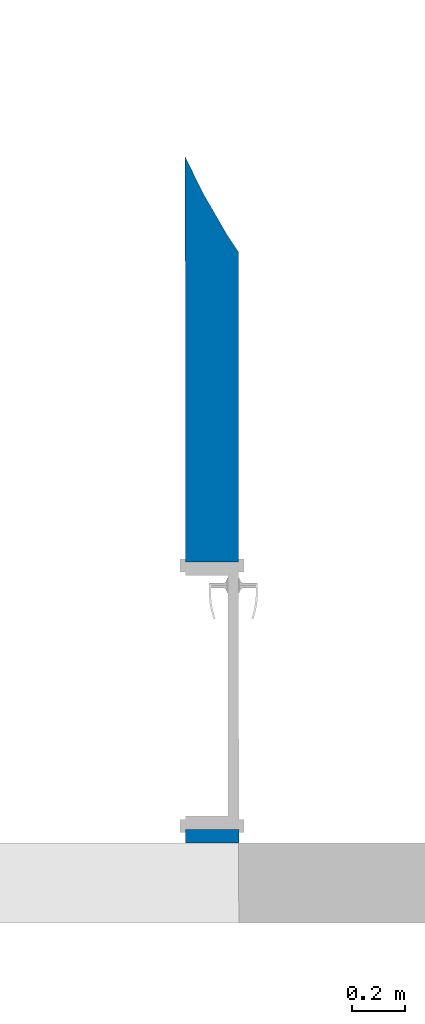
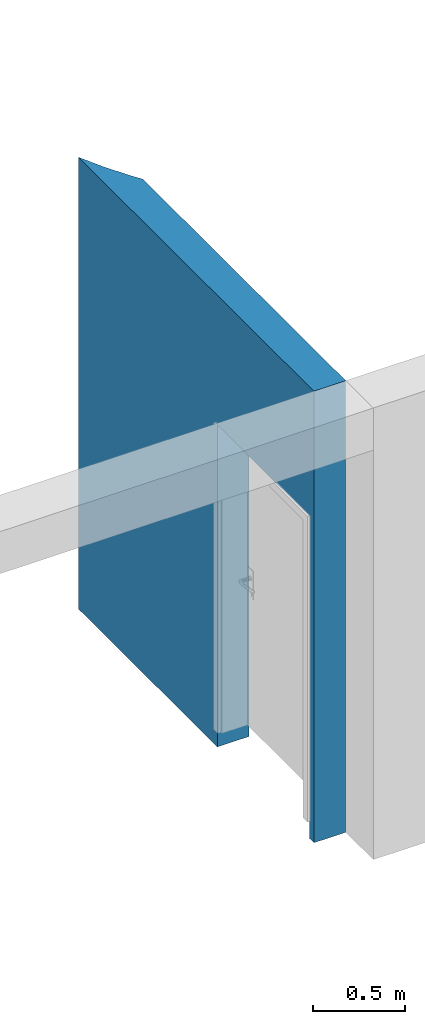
# One storey, part 2 of 5: 1 wall, 1 opening.
"""IFC4 building model written with IfcOpenShell, lengths in millimetres."""

from ifc_helpers import new_model, entity, si_unit, converted_unit, derived_unit, direction, frame, origin_with_axes, place, context, subcontext, project, spatial, polygons, material, constituent, constituent_set, type_object, element, save


model = new_model("IFC4")

# Units and contexts
model_context = context("Model", 3, precision=0.01, world=origin_with_axes(), true_north=direction((0.0, 1.0)))
body_context = subcontext(model_context, "Body", "Model", "MODEL_VIEW")
ifc_project = project(units=[si_unit("LENGTHUNIT", "METRE", prefix="MILLI"), si_unit("AREAUNIT", "SQUARE_METRE"), si_unit("VOLUMEUNIT", "CUBIC_METRE"), converted_unit("PLANEANGLEUNIT", "DEGREE", entity("IfcPlaneAngleMeasure", 0.0174532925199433), si_unit("PLANEANGLEUNIT", "RADIAN"), dimensions=[0, 0, 0, 0, 0, 0, 0]), converted_unit("TIMEUNIT", "Year", entity("IfcTimeMeasure", 31557600.0), si_unit("TIMEUNIT", "SECOND"), dimensions=[0, 0, 1, 0, 0, 0, 0]), si_unit("MASSUNIT", "GRAM", prefix="KILO"), si_unit("THERMODYNAMICTEMPERATUREUNIT", "DEGREE_CELSIUS"), si_unit("LUMINOUSINTENSITYUNIT", "LUMEN"), si_unit("ENERGYUNIT", "JOULE", prefix="MEGA"), derived_unit("THERMALCONDUCTANCEUNIT", [(si_unit("POWERUNIT", "WATT"), 1), (si_unit("LENGTHUNIT", "METRE"), -1), (si_unit("THERMODYNAMICTEMPERATUREUNIT", "KELVIN"), -1)]), derived_unit("SPECIFICHEATCAPACITYUNIT", [(si_unit("ENERGYUNIT", "JOULE"), 1), (si_unit("MASSUNIT", "GRAM", prefix="KILO"), -1), (si_unit("THERMODYNAMICTEMPERATUREUNIT", "KELVIN"), -1)]), derived_unit("MASSDENSITYUNIT", [(si_unit("MASSUNIT", "GRAM", prefix="KILO"), 1), (si_unit("VOLUMEUNIT", "CUBIC_METRE"), -1)])], contexts=[model_context])

# Site, building, storey
site_placement = place(None, origin_with_axes())
site = spatial("IfcSite", under=ifc_project, at=site_placement, Name="Exteriér", CompositionType="ELEMENT")
building_placement = place(site_placement, origin_with_axes())
building = spatial("IfcBuilding", under=site, at=building_placement, Name="Univerzitní lezecké centrum", CompositionType="ELEMENT")
storey_placement = place(building_placement, frame((0.0, 0.0, 3200.0), z_axis=(0.0, 0.0, 1.0), x_axis=(1.0, 0.0, 0.0)))
storey = spatial("IfcBuildingStorey", under=building, at=storey_placement, Name="2.NP", CompositionType="ELEMENT", Elevation=3200.0)

# Wall, opening
ifc_material = material(Name="Beton vyztužený - vnitřní svislé kce")
ifc_constituent = constituent(ifc_material, Name="Beton vyztužený - vnitřní svislé kce")
ifc_constituent_set = constituent_set(constituents=[ifc_constituent], Name="!Vnitřní betonová stěna 200 mm")
wall_type = type_object("IfcWallType", Name="!Vnitřní betonová stěna 200 mm 200", PredefinedType="NOTDEFINED")
wall_placement = place(storey_placement, frame((199.7521361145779, 2610.480756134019, -120.000000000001), z_axis=(0.0, 0.0, 1.0), x_axis=(1.113144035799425e-05, -0.9999999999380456, 0.0)))
wall = element("IfcWall", 1, at=wall_placement, inside=storey, type_object=wall_type, material=ifc_constituent_set, Name="St05", PredefinedType="NOTDEFINED", context=body_context, shape_type="Tessellation", body=[
    polygons([(2560.583490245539, -199.9999999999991, 0.0), (2560.574065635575, -200.0000000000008, 0.500000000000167), (2560.573880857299, -100.0111313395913, 0.500000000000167), (2560.573880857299, -100.0111313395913, 0.0), (2560.583490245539, -199.9999999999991, 40.99999999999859), (2610.684491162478, -200.0000000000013, 0.0), (2610.684491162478, -200.0000000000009, 3000.0), (47.01183823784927, -199.9999999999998, 3000.0), (47.01183823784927, -199.9999999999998, 0.0), (1560.583490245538, -199.9999999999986, 0.0), (1560.58458198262, -200.0000000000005, 0.500000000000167), (1560.583490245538, -200.0000000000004, 120.000000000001), (1560.583490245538, -200.0000000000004, 2140.000000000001), (2560.583490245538, -200.0000000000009, 2140.000000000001), (2560.583490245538, -200.0000000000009, 120.000000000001), (2560.573880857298, -100.0111313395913, 120.0000000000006), (2560.583490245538, 0.0, 120.000000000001), (2560.582407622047, 0.0, 0.500000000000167), (2560.583508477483, 0.0, 0.0), (2610.644165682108, 0.0, 0.0), (2610.644165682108, 0.0, 3000.0), (402.8237185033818, 0.0, 3000.0), (334.706051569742, -45.31851769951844, 3000.0), (186.2534977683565, -131.0254362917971, 3000.0), (87.15953575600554, -180.008931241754, 3000.0), (87.15953575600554, -180.008931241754, 0.0), (1560.583479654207, -2.454302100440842e-05, 0.0), (186.2534977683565, -131.0254362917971, 0.0), (334.706051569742, -45.31851769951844, 0.0), (402.8237185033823, 0.0, 0.0), (1560.583490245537, 0.0, 0.500000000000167), (1560.584603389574, -100.0000000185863, 0.500000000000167), (1560.583490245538, 0.0, 120.000000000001), (1560.583490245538, 0.0, 2140.000000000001), (2560.583490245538, 0.0, 2140.000000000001)], [[[1, 2, 3, 4]], [[5, 2, 1, 6, 7, 8, 9, 10, 11, 12, 13, 14, 15]], [[2, 5, 15, 16, 17, 18, 3]], [[4, 3, 18, 19]], [[6, 1, 4, 19, 20]], [[7, 6, 20, 21]], [[8, 7, 21, 22, 23, 24, 25]], [[26, 9, 8, 25]], [[27, 10, 9, 26, 28, 29, 30]], [[11, 10, 27, 31, 32]], [[11, 32, 31, 33, 12]], [[13, 12, 33, 34]], [[14, 13, 34, 35]], [[15, 14, 35, 17, 16]], [[31, 27, 30, 22, 21, 20, 19, 18, 17, 35, 34, 33]], [[30, 29, 23, 22]], [[28, 24, 23, 29]], [[24, 28, 26, 25]]], closed=True),
])
opening_placement = place(wall_placement, frame((2060.583490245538, 0.0, 120.000000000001), z_axis=(0.0, 0.0, 1.0), x_axis=(1.0, 0.0, 0.0)))
element("IfcOpeningElement", 2, at=opening_placement, cuts=wall, Name="D15", context=body_context, identifier="Reference", shape_type="Tessellation", body=[
    polygons([(-500.0000000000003, -200.0000000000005, 2020.0), (499.9999999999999, -200.0000000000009, 2020.0), (500.0, 0.0, 2020.0), (-500.0000000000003, 0.0, 2020.0), (499.9999999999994, -200.0000000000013, 0.0), (-500.0000000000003, -200.0000000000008, 0.0), (-512.0000000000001, -200.0000000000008, 0.0), (-512.0000000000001, -200.0000000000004, 2032.0), (512.0, -200.0000000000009, 2032.0), (512.0, -200.0000000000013, 0.0), (499.9999999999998, 0.0, 0.0), (512.0, 0.0, 0.0), (512.0, 0.0, 2032.0), (-512.0000000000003, 0.0, 2032.0), (-512.0000000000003, 0.0, 0.0), (-500.0000000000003, 0.0, 0.0), (-500.0000000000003, -201.0323885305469, 0.0), (-512.0000000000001, -201.0323885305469, 0.0), (-512.0000000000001, -201.0323885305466, 2032.0), (512.0, -201.0323885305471, 2032.0), (512.0, -201.0323885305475, 0.0), (499.9999999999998, -201.0323885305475, 0.0), (-499.9999999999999, 1.032388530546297, 0.0), (499.9999999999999, 1.032388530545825, 0.0), (512.0, 1.032388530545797, 0.0), (512.0, 1.032388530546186, 2032.0), (-512.0000000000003, 1.032388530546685, 2032.0), (-512.0000000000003, 1.032388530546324, 0.0), (-500.0000000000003, -201.0323885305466, 2020.0), (499.9999999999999, -201.0323885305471, 2020.0)], [[[1, 2, 3, 4]], [[5, 2, 1, 6, 7, 8, 9, 10]], [[2, 5, 11, 3]], [[4, 3, 11, 12, 13, 14, 15, 16]], [[6, 1, 4, 16]], [[6, 17, 18, 7]], [[8, 7, 18, 19]], [[9, 8, 19, 20]], [[10, 9, 20, 21]], [[22, 5, 10, 21]], [[17, 6, 16, 23, 24, 11, 5, 22]], [[11, 24, 25, 12]], [[13, 12, 25, 26]], [[14, 13, 26, 27]], [[15, 14, 27, 28]], [[23, 16, 15, 28]], [[29, 30, 22, 21, 20, 19, 18, 17]], [[24, 23, 28, 27, 26, 25]], [[29, 17, 22, 30]]], closed=True),
])

save(model, "model.ifc")
